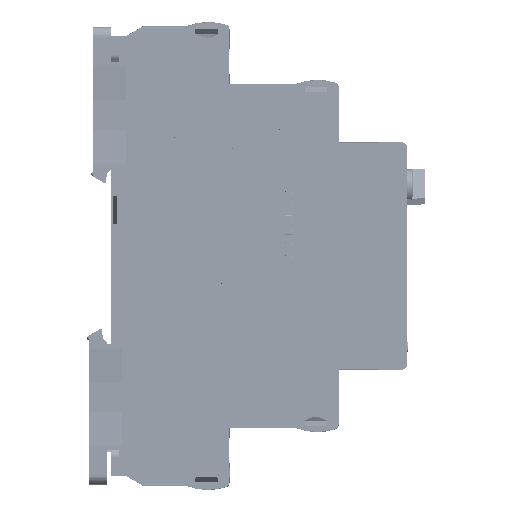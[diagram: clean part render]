
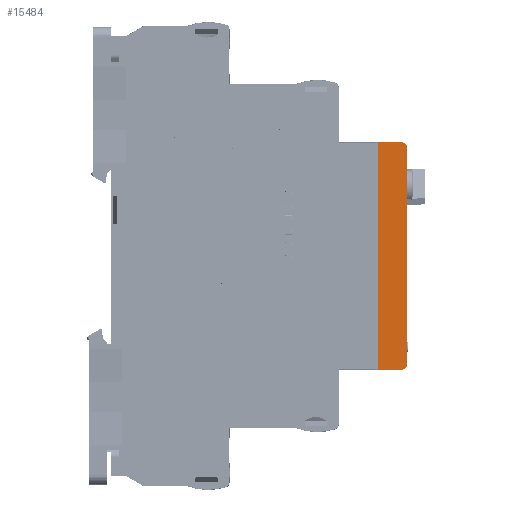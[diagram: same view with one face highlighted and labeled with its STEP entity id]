
A CAD part, front view. The second image highlights one B-rep face of the part: STEP entity #15484.
In plain terms, the highlighted planar face has unit normal (0, -1, 0) as drawn and (-1, 0, 0) by its records, which use the part's own axes.
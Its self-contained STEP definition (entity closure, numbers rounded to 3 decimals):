
#15484=ADVANCED_FACE('',(#104209),#104211,.T.);
#104209=FACE_BOUND('',#104210,.T.);
#104210=EDGE_LOOP('',(#238729,#238730,#238731,#238732,#238733,#238734));
#104211=PLANE('',#104212);
#104212=AXIS2_PLACEMENT_3D('',#104213,#104214,#104215);
#104213=CARTESIAN_POINT('',(-6.5,-22.6,1.5));
#104214=DIRECTION('',(-1.,0.,0.));
#104215=DIRECTION('',(0.,0.,1.));
#238729=ORIENTED_EDGE('',*,*,#370046,.T.);
#238730=ORIENTED_EDGE('',*,*,#370047,.T.);
#238731=ORIENTED_EDGE('',*,*,#370018,.F.);
#238732=ORIENTED_EDGE('',*,*,#370048,.T.);
#238733=ORIENTED_EDGE('',*,*,#370049,.F.);
#238734=ORIENTED_EDGE('',*,*,#370050,.T.);
#370018=EDGE_CURVE('',#428122,#428123,#428124,.T.);
#370046=EDGE_CURVE('',#428174,#428175,#428176,.T.);
#370047=EDGE_CURVE('',#428175,#428123,#428177,.T.);
#370048=EDGE_CURVE('',#428122,#428178,#428179,.T.);
#370049=EDGE_CURVE('',#428180,#428178,#428181,.T.);
#370050=EDGE_CURVE('',#428180,#428174,#428182,.T.);
#428122=VERTEX_POINT('',#528007);
#428123=VERTEX_POINT('',#528008);
#428124=LINE('',#528009,#528010);
#428174=VERTEX_POINT('',#528115);
#428175=VERTEX_POINT('',#528116);
#428176=LINE('',#528117,#528118);
#428177=CIRCLE('',#528120,1.);
#428178=VERTEX_POINT('',#528124);
#428179=CIRCLE('',#528125,1.);
#428180=VERTEX_POINT('',#528129);
#428181=LINE('',#528130,#528131);
#428182=LINE('',#528133,#528134);
#528007=CARTESIAN_POINT('',(-6.5,-21.6,0.));
#528008=CARTESIAN_POINT('',(-6.5,21.6,0.));
#528009=CARTESIAN_POINT('',(-6.5,-21.6,0.));
#528010=VECTOR('',#528011,1.);
#528011=DIRECTION('',(0.,1.,0.));
#528115=CARTESIAN_POINT('',(-6.5,22.6,5.75));
#528116=CARTESIAN_POINT('',(-6.5,22.6,1.));
#528117=CARTESIAN_POINT('',(-6.5,22.6,5.75));
#528118=VECTOR('',#528119,1.);
#528119=DIRECTION('',(0.,0.,-1.));
#528120=AXIS2_PLACEMENT_3D('',#528121,#528122,#528123);
#528121=CARTESIAN_POINT('',(-6.5,21.6,1.));
#528122=DIRECTION('',(-1.,0.,0.));
#528123=DIRECTION('',(0.,1.,0.));
#528124=CARTESIAN_POINT('',(-6.5,-22.6,1.));
#528125=AXIS2_PLACEMENT_3D('',#528126,#528127,#528128);
#528126=CARTESIAN_POINT('',(-6.5,-21.6,1.));
#528127=DIRECTION('',(-1.,0.,0.));
#528128=DIRECTION('',(0.,0.,-1.));
#528129=CARTESIAN_POINT('',(-6.5,-22.6,5.75));
#528130=CARTESIAN_POINT('',(-6.5,-22.6,5.75));
#528131=VECTOR('',#528132,1.);
#528132=DIRECTION('',(0.,0.,-1.));
#528133=CARTESIAN_POINT('',(-6.5,-22.6,5.75));
#528134=VECTOR('',#528135,1.);
#528135=DIRECTION('',(0.,1.,0.));
